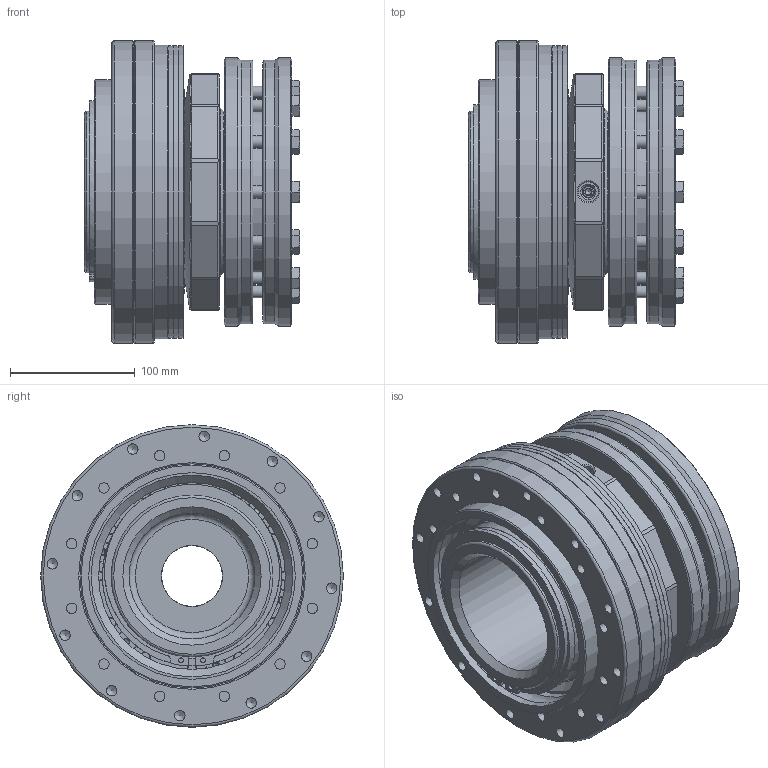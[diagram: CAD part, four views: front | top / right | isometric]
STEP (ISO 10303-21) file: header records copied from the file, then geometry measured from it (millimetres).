
FILE_DESCRIPTION(/* description */ ('Unknown','CAx-IF Rec.Pracs.---Representation and Presentation of Product Manufacturing Information (PMI)---4.0---2014-10-13','CAx-IF Rec.Pracs.---3D Tessellated Geometry---0.4---2014-09-14','2;1'),/* implementation_level */ '2;1');
FILE_NAME(/* name */ 'SKB 9000',/* time_stamp */ '2023-10-06T09:55:24+02:00',/* author */ ('Unknown'),/* organization */ ('Unknown'),/* preprocessor_version */ 'ST-DEVELOPER v18.102',/* originating_system */ 'Solid Edge',/* authorisation */ 'Unknown');
FILE_SCHEMA (('AP242_MANAGED_MODEL_BASED_3D_ENGINEERING_MIM_LF { 1 0 10303 442 1 1 4 }'));
Length unit declared in the file: millimetre
Products named in the file (1): SKB 9000
Bounding box: 172.7 x 243 x 243 mm (x, y, z)
Volume: 4479837.4 mm3; surface area: 649228.2 mm2
Topology: 1 solids, 40 shells, 963 faces, 2559 edges, 1640 vertices
Faces by surface type: plane 349, cone 270, cylinder 232, sphere 64, torus 48
Full cylindrical faces by diameter (mm): 4 x2, 6.647 x6, 6.8 x2, 8 x30, 8.376 x38, 8.5 x6, 10 x14, 10.5 x12, 14 x24, 15.6 x12, 16 x8, 49 x1, 101 x1, 126 x1, 129.8 x1, 130 x2, 130.1 x1, 133.457 x1, 135 x2, 144 x2, 144.923 x1, 150 x1, 165 x2, 166 x2, 180 x2, 185 x1, 212 x2, 215.3 x2, 234.225 x1, 236 x2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
Entity records: 25510 total; most frequent: CARTESIAN_POINT 5468, DIRECTION 4230, ORIENTED_EDGE 3524, AXIS2_PLACEMENT_3D 1900, EDGE_CURVE 1762, FACE_BOUND 1540, EDGE_LOOP 1482, VERTEX_POINT 1322
